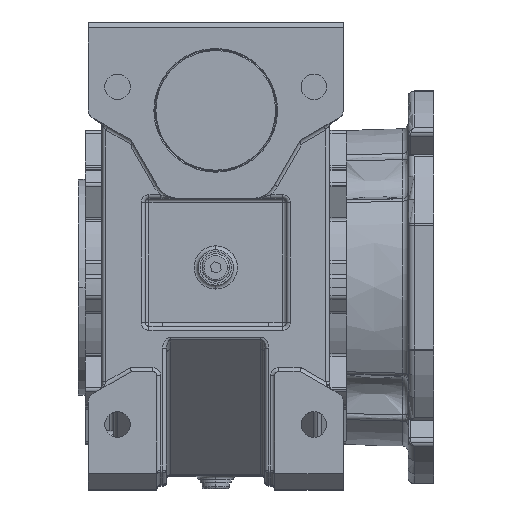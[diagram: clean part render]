
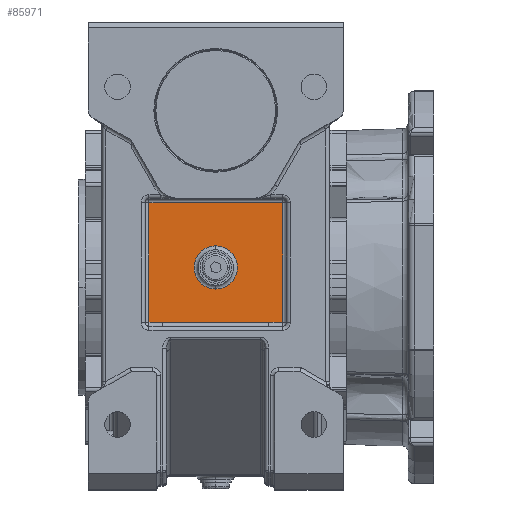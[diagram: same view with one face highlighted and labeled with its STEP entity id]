
A CAD part, top view. The second image highlights one B-rep face of the part: STEP entity #85971.
In plain terms, the highlighted planar face has unit normal (0, 0, 1).
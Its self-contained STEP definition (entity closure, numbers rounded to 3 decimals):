
#83510 = EDGE_CURVE ( 'NONE', #83514, #83518, #154849, .T. ) ;
#83514 = VERTEX_POINT ( 'NONE', #154841 ) ;
#83518 = VERTEX_POINT ( 'NONE', #154839 ) ;
#85905 = EDGE_CURVE ( 'NONE', #86179, #85909, #160426, .T. ) ;
#85909 = VERTEX_POINT ( 'NONE', #160418 ) ;
#85912 = ORIENTED_EDGE ( 'NONE', *, *, #85914, .T. ) ;
#85914 = EDGE_CURVE ( 'NONE', #85909, #85916, #160414, .T. ) ;
#85916 = VERTEX_POINT ( 'NONE', #160409 ) ;
#85918 = VERTEX_POINT ( 'NONE', #160406 ) ;
#85971 = ADVANCED_FACE ( 'NONE', ( #160507, #160505 ), #160500, .F. ) ;
#85977 = EDGE_LOOP ( 'NONE', ( #86163, #86170 ) ) ;
#86112 = ORIENTED_EDGE ( 'NONE', *, *, #86114, .T. ) ;
#86114 = EDGE_CURVE ( 'NONE', #85916, #85918, #160760, .T. ) ;
#86118 = ORIENTED_EDGE ( 'NONE', *, *, #86122, .T. ) ;
#86122 = EDGE_CURVE ( 'NONE', #85918, #86128, #160738, .T. ) ;
#86128 = VERTEX_POINT ( 'NONE', #160730 ) ;
#86130 = ORIENTED_EDGE ( 'NONE', *, *, #86131, .T. ) ;
#86131 = EDGE_CURVE ( 'NONE', #86128, #86177, #160725, .T. ) ;
#86163 = ORIENTED_EDGE ( 'NONE', *, *, #86166, .T. ) ;
#86166 = EDGE_CURVE ( 'NONE', #83518, #83514, #160839, .T. ) ;
#86170 = ORIENTED_EDGE ( 'NONE', *, *, #83510, .T. ) ;
#86174 = EDGE_LOOP ( 'NONE', ( #86175, #86182, #85912, #86112, #86118, #86130 ) ) ;
#86175 = ORIENTED_EDGE ( 'NONE', *, *, #86176, .T. ) ;
#86176 = EDGE_CURVE ( 'NONE', #86177, #86179, #160827, .T. ) ;
#86177 = VERTEX_POINT ( 'NONE', #160819 ) ;
#86179 = VERTEX_POINT ( 'NONE', #160817 ) ;
#86182 = ORIENTED_EDGE ( 'NONE', *, *, #85905, .T. ) ;
#154839 = CARTESIAN_POINT ( 'NONE',  ( 0., 21., 96. ) ) ;
#154841 = CARTESIAN_POINT ( 'NONE',  ( 0., -1., 96. ) ) ;
#154844 = DIRECTION ( 'NONE',  ( 0., 1., 0. ) ) ;
#154845 = DIRECTION ( 'NONE',  ( 0., 0., -1. ) ) ;
#154846 = CARTESIAN_POINT ( 'NONE',  ( 0., 10., 96. ) ) ;
#154848 = AXIS2_PLACEMENT_3D ( 'NONE', #154846, #154845, #154844 ) ;
#154849 = CIRCLE ( 'NONE', #154848, 11. ) ;
#160406 = CARTESIAN_POINT ( 'NONE',  ( 34., 43., 96. ) ) ;
#160409 = CARTESIAN_POINT ( 'NONE',  ( 34., -18., 96. ) ) ;
#160411 = DIRECTION ( 'NONE',  ( 1., 0., 0. ) ) ;
#160412 = VECTOR ( 'NONE', #160411, 1000. ) ;
#160413 = CARTESIAN_POINT ( 'NONE',  ( 43., -18., 96. ) ) ;
#160414 = LINE ( 'NONE', #160413, #160412 ) ;
#160418 = CARTESIAN_POINT ( 'NONE',  ( 27., -18., 96. ) ) ;
#160420 = DIRECTION ( 'NONE',  ( 1., 0., 0. ) ) ;
#160422 = VECTOR ( 'NONE', #160420, 1000. ) ;
#160424 = CARTESIAN_POINT ( 'NONE',  ( 43., -18., 96. ) ) ;
#160426 = LINE ( 'NONE', #160424, #160422 ) ;
#160492 = DIRECTION ( 'NONE',  ( 0., 1., 0. ) ) ;
#160494 = DIRECTION ( 'NONE',  ( 0., 0., -1. ) ) ;
#160496 = CARTESIAN_POINT ( 'NONE',  ( 43., 90., 96. ) ) ;
#160498 = AXIS2_PLACEMENT_3D ( 'NONE', #160496, #160494, #160492 ) ;
#160500 = PLANE ( 'NONE',  #160498 ) ;
#160505 = FACE_OUTER_BOUND ( 'NONE', #86174, .T. ) ;
#160507 = FACE_BOUND ( 'NONE', #85977, .T. ) ;
#160720 = DIRECTION ( 'NONE',  ( 0., -1., 0. ) ) ;
#160721 = VECTOR ( 'NONE', #160720, 1000. ) ;
#160723 = CARTESIAN_POINT ( 'NONE',  ( -34., 90., 96. ) ) ;
#160725 = LINE ( 'NONE', #160723, #160721 ) ;
#160730 = CARTESIAN_POINT ( 'NONE',  ( -34., 43., 96. ) ) ;
#160732 = DIRECTION ( 'NONE',  ( -1., 0., 0. ) ) ;
#160734 = VECTOR ( 'NONE', #160732, 1000. ) ;
#160736 = CARTESIAN_POINT ( 'NONE',  ( 43., 43., 96. ) ) ;
#160738 = LINE ( 'NONE', #160736, #160734 ) ;
#160743 = DIRECTION ( 'NONE',  ( 0., 1., 0. ) ) ;
#160744 = VECTOR ( 'NONE', #160743, 1000. ) ;
#160746 = CARTESIAN_POINT ( 'NONE',  ( 34., 90., 96. ) ) ;
#160760 = LINE ( 'NONE', #160746, #160744 ) ;
#160817 = CARTESIAN_POINT ( 'NONE',  ( -27., -18., 96. ) ) ;
#160819 = CARTESIAN_POINT ( 'NONE',  ( -34., -18., 96. ) ) ;
#160822 = DIRECTION ( 'NONE',  ( 1., 0., 0. ) ) ;
#160823 = VECTOR ( 'NONE', #160822, 1000. ) ;
#160825 = CARTESIAN_POINT ( 'NONE',  ( 43., -18., 96. ) ) ;
#160827 = LINE ( 'NONE', #160825, #160823 ) ;
#160832 = DIRECTION ( 'NONE',  ( 0., 1., 0. ) ) ;
#160834 = DIRECTION ( 'NONE',  ( 0., 0., -1. ) ) ;
#160836 = CARTESIAN_POINT ( 'NONE',  ( 0., 10., 96. ) ) ;
#160837 = AXIS2_PLACEMENT_3D ( 'NONE', #160836, #160834, #160832 ) ;
#160839 = CIRCLE ( 'NONE', #160837, 11. ) ;
